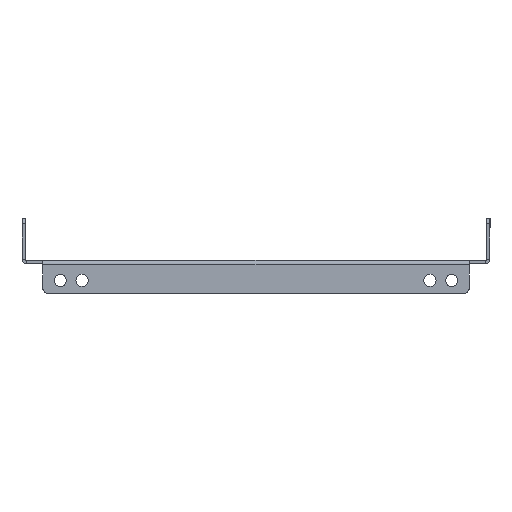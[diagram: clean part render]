
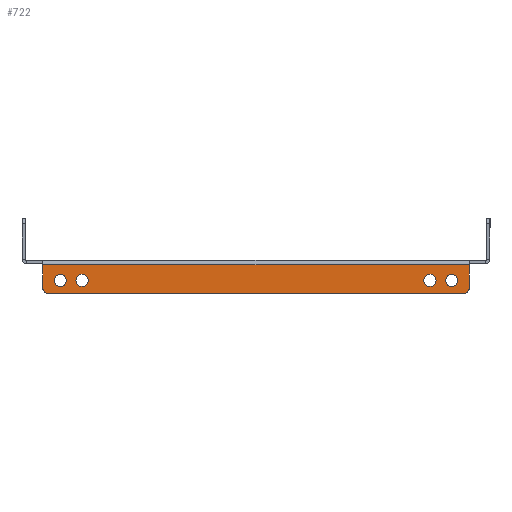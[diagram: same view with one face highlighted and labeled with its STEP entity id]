
A CAD part, left-side view. The second image highlights one B-rep face of the part: STEP entity #722.
In plain terms, the highlighted planar face has unit normal (-1, 0, 0).
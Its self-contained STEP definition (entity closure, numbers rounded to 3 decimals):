
#32 = EDGE_LOOP ( 'NONE', ( #3482, #2081 ) ) ;
#59 = AXIS2_PLACEMENT_3D ( 'NONE', #1107, #2450, #1239 ) ;
#82 = EDGE_CURVE ( 'NONE', #2896, #2743, #2042, .T. ) ;
#113 = ORIENTED_EDGE ( 'NONE', *, *, #584, .F. ) ;
#173 = FACE_BOUND ( 'NONE', #32, .T. ) ;
#181 = EDGE_CURVE ( 'NONE', #2111, #3783, #4014, .T. ) ;
#240 = DIRECTION ( 'NONE',  ( -1., 0., 0. ) ) ;
#305 = DIRECTION ( 'NONE',  ( 0., 1., 0. ) ) ;
#345 = CARTESIAN_POINT ( 'NONE',  ( -250., -122.5, -17. ) ) ;
#366 = LINE ( 'NONE', #345, #2489 ) ;
#377 = VECTOR ( 'NONE', #665, 1000. ) ;
#404 = CARTESIAN_POINT ( 'NONE',  ( -250., -112.5, -9.5 ) ) ;
#413 = DIRECTION ( 'NONE',  ( 0., 0., -1. ) ) ;
#416 = FACE_BOUND ( 'NONE', #3442, .T. ) ;
#494 = CIRCLE ( 'NONE', #59, 3.5 ) ;
#506 = CARTESIAN_POINT ( 'NONE',  ( -250., -100., -9.5 ) ) ;
#528 = CARTESIAN_POINT ( 'NONE',  ( -250., 112.5, -13. ) ) ;
#548 = VERTEX_POINT ( 'NONE', #3399 ) ;
#584 = EDGE_CURVE ( 'NONE', #3555, #3141, #366, .T. ) ;
#665 = DIRECTION ( 'NONE',  ( 0., 0., 1. ) ) ;
#702 = EDGE_CURVE ( 'NONE', #3485, #1130, #3822, .T. ) ;
#704 = CARTESIAN_POINT ( 'NONE',  ( -250., -119.5, -14. ) ) ;
#722 = ADVANCED_FACE ( 'NONE', ( #416, #173, #839, #1161, #4080 ), #3746, .T. ) ;
#749 = ORIENTED_EDGE ( 'NONE', *, *, #1041, .F. ) ;
#760 = DIRECTION ( 'NONE',  ( 0., 0., 1. ) ) ;
#772 = EDGE_CURVE ( 'NONE', #1054, #4229, #2423, .T. ) ;
#804 = CARTESIAN_POINT ( 'NONE',  ( -250., -119.5, -17. ) ) ;
#810 = DIRECTION ( 'NONE',  ( -1., 0., 0. ) ) ;
#812 = CARTESIAN_POINT ( 'NONE',  ( -250., 122.5, -0.6 ) ) ;
#815 = CARTESIAN_POINT ( 'NONE',  ( -250., 112.5, -9.5 ) ) ;
#839 = FACE_BOUND ( 'NONE', #3372, .T. ) ;
#853 = CARTESIAN_POINT ( 'NONE',  ( -250., 100., -13. ) ) ;
#901 = DIRECTION ( 'NONE',  ( -1., 0., 0. ) ) ;
#1006 = CARTESIAN_POINT ( 'NONE',  ( -250., 122.5, -17. ) ) ;
#1017 = CIRCLE ( 'NONE', #3125, 3.5 ) ;
#1019 = CARTESIAN_POINT ( 'NONE',  ( -250., -100., -6. ) ) ;
#1029 = DIRECTION ( 'NONE',  ( 0., 1., 0. ) ) ;
#1041 = EDGE_CURVE ( 'NONE', #3642, #548, #1017, .T. ) ;
#1054 = VERTEX_POINT ( 'NONE', #1068 ) ;
#1068 = CARTESIAN_POINT ( 'NONE',  ( -250., 100., -6. ) ) ;
#1107 = CARTESIAN_POINT ( 'NONE',  ( -250., 100., -9.5 ) ) ;
#1130 = VERTEX_POINT ( 'NONE', #528 ) ;
#1137 = DIRECTION ( 'NONE',  ( 0., 0., 1. ) ) ;
#1161 = FACE_BOUND ( 'NONE', #2752, .T. ) ;
#1169 = AXIS2_PLACEMENT_3D ( 'NONE', #404, #3345, #2751 ) ;
#1223 = EDGE_CURVE ( 'NONE', #3121, #4038, #2628, .T. ) ;
#1239 = DIRECTION ( 'NONE',  ( 0., 0., 1. ) ) ;
#1413 = CARTESIAN_POINT ( 'NONE',  ( -250., 112.5, -9.5 ) ) ;
#1525 = EDGE_CURVE ( 'NONE', #2111, #2743, #2695, .T. ) ;
#1586 = CARTESIAN_POINT ( 'NONE',  ( -250., -100., -13. ) ) ;
#1627 = EDGE_CURVE ( 'NONE', #3555, #3783, #2087, .T. ) ;
#1677 = CARTESIAN_POINT ( 'NONE',  ( -250., -122.5, -0.6 ) ) ;
#1678 = EDGE_CURVE ( 'NONE', #2896, #3141, #2908, .T. ) ;
#1712 = AXIS2_PLACEMENT_3D ( 'NONE', #4167, #2785, #2157 ) ;
#1798 = AXIS2_PLACEMENT_3D ( 'NONE', #3899, #2233, #1896 ) ;
#1834 = DIRECTION ( 'NONE',  ( -1., 0., 0. ) ) ;
#1858 = AXIS2_PLACEMENT_3D ( 'NONE', #506, #1834, #3181 ) ;
#1859 = AXIS2_PLACEMENT_3D ( 'NONE', #3903, #901, #2870 ) ;
#1896 = DIRECTION ( 'NONE',  ( 0., 0., -1. ) ) ;
#2012 = CARTESIAN_POINT ( 'NONE',  ( -250., 122.5, -0.6 ) ) ;
#2042 = LINE ( 'NONE', #1006, #2895 ) ;
#2054 = ORIENTED_EDGE ( 'NONE', *, *, #3023, .F. ) ;
#2077 = DIRECTION ( 'NONE',  ( -1., 0., 0. ) ) ;
#2081 = ORIENTED_EDGE ( 'NONE', *, *, #1223, .F. ) ;
#2087 = LINE ( 'NONE', #2012, #2563 ) ;
#2111 = VERTEX_POINT ( 'NONE', #3484 ) ;
#2118 = ORIENTED_EDGE ( 'NONE', *, *, #702, .F. ) ;
#2157 = DIRECTION ( 'NONE',  ( 0., 0., 1. ) ) ;
#2233 = DIRECTION ( 'NONE',  ( -1., 0., 0. ) ) ;
#2253 = EDGE_CURVE ( 'NONE', #4038, #3121, #3683, .T. ) ;
#2254 = CARTESIAN_POINT ( 'NONE',  ( -250., 119.5, -17. ) ) ;
#2413 = EDGE_CURVE ( 'NONE', #548, #3642, #3207, .T. ) ;
#2423 = CIRCLE ( 'NONE', #1859, 3.5 ) ;
#2450 = DIRECTION ( 'NONE',  ( -1., 0., 0. ) ) ;
#2489 = VECTOR ( 'NONE', #4058, 1000. ) ;
#2532 = ORIENTED_EDGE ( 'NONE', *, *, #2413, .F. ) ;
#2563 = VECTOR ( 'NONE', #1029, 1000. ) ;
#2568 = ORIENTED_EDGE ( 'NONE', *, *, #1525, .T. ) ;
#2573 = DIRECTION ( 'NONE',  ( 0., 0., 1. ) ) ;
#2628 = CIRCLE ( 'NONE', #1858, 3.5 ) ;
#2676 = CARTESIAN_POINT ( 'NONE',  ( -250., 122.5, 0. ) ) ;
#2695 = CIRCLE ( 'NONE', #3332, 3. ) ;
#2743 = VERTEX_POINT ( 'NONE', #2254 ) ;
#2751 = DIRECTION ( 'NONE',  ( 0., 0., -1. ) ) ;
#2752 = EDGE_LOOP ( 'NONE', ( #2118, #4235 ) ) ;
#2785 = DIRECTION ( 'NONE',  ( -1., 0., 0. ) ) ;
#2803 = CARTESIAN_POINT ( 'NONE',  ( -250., -112.5, -9.5 ) ) ;
#2833 = ORIENTED_EDGE ( 'NONE', *, *, #1627, .T. ) ;
#2870 = DIRECTION ( 'NONE',  ( 0., 0., 1. ) ) ;
#2879 = CARTESIAN_POINT ( 'NONE',  ( -250., -122.5, -14. ) ) ;
#2895 = VECTOR ( 'NONE', #305, 1000. ) ;
#2896 = VERTEX_POINT ( 'NONE', #804 ) ;
#2908 = CIRCLE ( 'NONE', #3267, 3. ) ;
#3023 = EDGE_CURVE ( 'NONE', #4229, #1054, #494, .T. ) ;
#3121 = VERTEX_POINT ( 'NONE', #1586 ) ;
#3125 = AXIS2_PLACEMENT_3D ( 'NONE', #2803, #810, #413 ) ;
#3141 = VERTEX_POINT ( 'NONE', #2879 ) ;
#3172 = AXIS2_PLACEMENT_3D ( 'NONE', #1413, #2077, #760 ) ;
#3181 = DIRECTION ( 'NONE',  ( 0., 0., -1. ) ) ;
#3207 = CIRCLE ( 'NONE', #1169, 3.5 ) ;
#3257 = ORIENTED_EDGE ( 'NONE', *, *, #82, .F. ) ;
#3263 = AXIS2_PLACEMENT_3D ( 'NONE', #815, #3422, #1137 ) ;
#3267 = AXIS2_PLACEMENT_3D ( 'NONE', #704, #3663, #4010 ) ;
#3332 = AXIS2_PLACEMENT_3D ( 'NONE', #4234, #240, #2573 ) ;
#3345 = DIRECTION ( 'NONE',  ( -1., 0., 0. ) ) ;
#3367 = ORIENTED_EDGE ( 'NONE', *, *, #181, .F. ) ;
#3372 = EDGE_LOOP ( 'NONE', ( #4248, #2054 ) ) ;
#3378 = CIRCLE ( 'NONE', #3172, 3.5 ) ;
#3399 = CARTESIAN_POINT ( 'NONE',  ( -250., -112.5, -13. ) ) ;
#3422 = DIRECTION ( 'NONE',  ( -1., 0., 0. ) ) ;
#3442 = EDGE_LOOP ( 'NONE', ( #749, #2532 ) ) ;
#3482 = ORIENTED_EDGE ( 'NONE', *, *, #2253, .F. ) ;
#3484 = CARTESIAN_POINT ( 'NONE',  ( -250., 122.5, -14. ) ) ;
#3485 = VERTEX_POINT ( 'NONE', #3640 ) ;
#3555 = VERTEX_POINT ( 'NONE', #1677 ) ;
#3640 = CARTESIAN_POINT ( 'NONE',  ( -250., 112.5, -6. ) ) ;
#3642 = VERTEX_POINT ( 'NONE', #4077 ) ;
#3663 = DIRECTION ( 'NONE',  ( -1., 0., 0. ) ) ;
#3683 = CIRCLE ( 'NONE', #1798, 3.5 ) ;
#3740 = EDGE_LOOP ( 'NONE', ( #3257, #4096, #113, #2833, #3367, #2568 ) ) ;
#3746 = PLANE ( 'NONE',  #1712 ) ;
#3783 = VERTEX_POINT ( 'NONE', #812 ) ;
#3822 = CIRCLE ( 'NONE', #3263, 3.5 ) ;
#3899 = CARTESIAN_POINT ( 'NONE',  ( -250., -100., -9.5 ) ) ;
#3903 = CARTESIAN_POINT ( 'NONE',  ( -250., 100., -9.5 ) ) ;
#4010 = DIRECTION ( 'NONE',  ( 0., 0., 1. ) ) ;
#4014 = LINE ( 'NONE', #2676, #377 ) ;
#4038 = VERTEX_POINT ( 'NONE', #1019 ) ;
#4058 = DIRECTION ( 'NONE',  ( 0., 0., -1. ) ) ;
#4077 = CARTESIAN_POINT ( 'NONE',  ( -250., -112.5, -6. ) ) ;
#4080 = FACE_OUTER_BOUND ( 'NONE', #3740, .T. ) ;
#4096 = ORIENTED_EDGE ( 'NONE', *, *, #1678, .T. ) ;
#4100 = EDGE_CURVE ( 'NONE', #1130, #3485, #3378, .T. ) ;
#4167 = CARTESIAN_POINT ( 'NONE',  ( -250., 122.5, 0. ) ) ;
#4229 = VERTEX_POINT ( 'NONE', #853 ) ;
#4234 = CARTESIAN_POINT ( 'NONE',  ( -250., 119.5, -14. ) ) ;
#4235 = ORIENTED_EDGE ( 'NONE', *, *, #4100, .F. ) ;
#4248 = ORIENTED_EDGE ( 'NONE', *, *, #772, .F. ) ;
